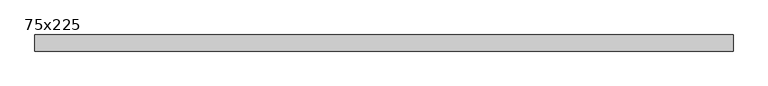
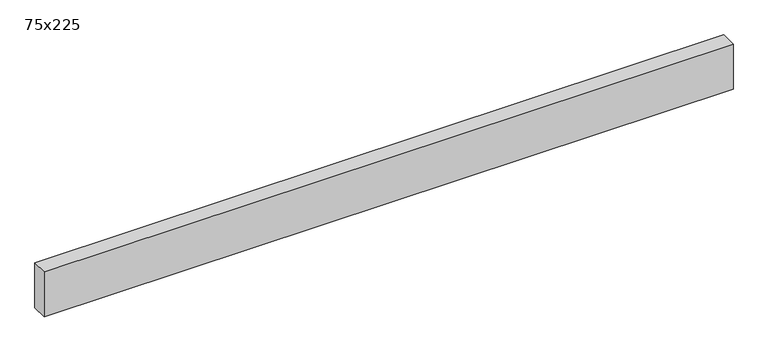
"""IFC4 building model written with IfcOpenShell, lengths in millimetres: beam geometry, Madrier : 75x225."""

import ifcopenshell
import ifcopenshell.guid

model = None  # the IFC model being written
_history = None  # IfcOwnerHistory: only IFC2X3 demands one
_inside = {}  # id of a spatial element -> (the spatial element, [elements in it])
_under = {}  # id of a project, library or spatial element -> (it, [spatial elements below it])
_declared = {}  # id of a project -> (the project, [libraries it declares])
_typed = {}  # id of a type object -> (the type object, [elements of that type])
_made_of = {}  # id of a material, layer set ... -> (it, [elements and type objects made of it])


def new_model(schema):
    """Start an empty IFC model of exactly this schema.

    Asked for "IFC4X3", IfcOpenShell would pick the latest addendum, in which some entities
    have other attributes; the version numbers below select the first issue.
    IFC2X3 requires an IfcOwnerHistory on every rooted entity: one is made here for all.
    """
    global model, _history
    if schema == "IFC4X3":
        model = ifcopenshell.file(schema_version=(4, 3, 0, 0))
    else:
        model = ifcopenshell.file(schema=schema)
    _inside.clear()
    _under.clear()
    _declared.clear()
    _typed.clear()
    _made_of.clear()
    _history = None
    if model.schema == "IFC2X3":
        org = make("IfcOrganization", Name="unknown")
        user = make(
            "IfcPersonAndOrganization",
            ThePerson=make("IfcPerson", FamilyName="unknown"),
            TheOrganization=org,
        )
        app = make(
            "IfcApplication",
            ApplicationDeveloper=org,
            Version="unknown",
            ApplicationFullName="unknown",
            ApplicationIdentifier="unknown",
        )
        _history = make(
            "IfcOwnerHistory",
            OwningUser=user,
            OwningApplication=app,
            ChangeAction="ADDED",
            CreationDate=0,
        )
    return model


def make(cls, **values):
    """One entity of the class cls with the attributes given. An attribute that is None is left unset."""
    return model.create_entity(
        cls, **{name: value for name, value in values.items() if value is not None}
    )


def rooted(cls, **values):
    """An entity with a GlobalId (a new one), such as an element, a storey or a relation."""
    return make(cls, GlobalId=ifcopenshell.guid.new(), OwnerHistory=_history, **values)


def si_unit(unit_type, name, prefix=None):
    """IfcSIUnit, for example si_unit("LENGTHUNIT", "METRE", prefix="MILLI")."""
    return make("IfcSIUnit", UnitType=unit_type, Prefix=prefix, Name=name)


def assignment(units):
    """IfcUnitAssignment: the units of a project."""
    return None if units is None else make("IfcUnitAssignment", Units=units)


def point(xyz):
    """IfcCartesianPoint."""
    return None if xyz is None else make("IfcCartesianPoint", Coordinates=xyz)


def direction(xyz):
    """IfcDirection."""
    return None if xyz is None else make("IfcDirection", DirectionRatios=xyz)


def frame(location, z_axis=None, x_axis=None):
    """IfcAxis2Placement3D, a coordinate frame: its origin and axes. An axis left out is left unset."""
    return make(
        "IfcAxis2Placement3D",
        Location=point(location),
        Axis=direction(z_axis),
        RefDirection=direction(x_axis),
    )


def origin():
    """The frame at (0, 0, 0) with its axes left unset."""
    return frame((0.0, 0.0, 0.0))


def place(relative_to, where):
    """IfcLocalPlacement: puts the frame where relative to a parent placement (None: the world)."""
    return make(
        "IfcLocalPlacement", PlacementRelTo=relative_to, RelativePlacement=where
    )


def context(
    kind, dimensions, precision=None, world=None, true_north=None, identifier=None
):
    """IfcGeometricRepresentationContext, for example the 3D "Model" context."""
    return make(
        "IfcGeometricRepresentationContext",
        ContextIdentifier=identifier,
        ContextType=kind,
        CoordinateSpaceDimension=dimensions,
        Precision=precision,
        WorldCoordinateSystem=world,
        TrueNorth=true_north,
    )


def project(units=None, contexts=None):
    """IfcProject with its units and contexts."""
    return rooted(
        "IfcProject",
        Name="project",
        RepresentationContexts=contexts,
        UnitsInContext=assignment(units),
    )


def spatial(cls, under=None, at=None, **own):
    """A site, building, storey or space (cls), placed at a placement, below another one or the project."""
    s = rooted(cls, ObjectPlacement=at, **own)
    if under is not None:
        _under.setdefault(under.id(), (under, []))[1].append(s)
    return s


def polyline(points):
    """IfcPolyline through the points."""
    return make("IfcPolyline", Points=[point(p) for p in points])


def outline(outer, holes=None, kind="AREA"):
    """IfcArbitraryClosedProfileDef: a profile drawn as a closed curve; with holes, ...WithVoids."""
    if holes is None:
        return make("IfcArbitraryClosedProfileDef", ProfileType=kind, OuterCurve=outer)
    return make(
        "IfcArbitraryProfileDefWithVoids",
        ProfileType=kind,
        OuterCurve=outer,
        InnerCurves=holes,
    )


def extrude(swept, where, along, depth):
    """IfcExtrudedAreaSolid: the profile swept, set in the frame where, extruded along a direction by depth."""
    return make(
        "IfcExtrudedAreaSolid",
        SweptArea=swept,
        Position=where,
        ExtrudedDirection=direction(along),
        Depth=depth,
    )


def shape(context_of_items, identifier, shape_type, items):
    """IfcShapeRepresentation: the items that make up one representation, for example the "Body"."""
    return make(
        "IfcShapeRepresentation",
        ContextOfItems=context_of_items,
        RepresentationIdentifier=identifier,
        RepresentationType=shape_type,
        Items=items,
    )


def source(mapping_origin, context_of_items, identifier, shape_type, items):
    """IfcRepresentationMap: a shape defined once, which mapped items show again and again."""
    return make(
        "IfcRepresentationMap",
        MappingOrigin=mapping_origin,
        MappedRepresentation=shape(context_of_items, identifier, shape_type, items),
    )


def transform(
    local_origin,
    x_axis=None,
    y_axis=None,
    z_axis=None,
    scale=None,
    scale2=None,
    scale3=None,
    uniform=True,
):
    """IfcCartesianTransformationOperator3D, or its non-uniform kind. x_axis, y_axis, z_axis: its Axis1, 2, 3."""
    if uniform:
        return make(
            "IfcCartesianTransformationOperator3D",
            Axis1=direction(x_axis),
            Axis2=direction(y_axis),
            LocalOrigin=point(local_origin),
            Scale=scale,
            Axis3=direction(z_axis),
        )
    return make(
        "IfcCartesianTransformationOperator3DnonUniform",
        Axis1=direction(x_axis),
        Axis2=direction(y_axis),
        LocalOrigin=point(local_origin),
        Scale=scale,
        Axis3=direction(z_axis),
        Scale2=scale2,
        Scale3=scale3,
    )


def mapped(mapping_source, mapping_target):
    """IfcMappedItem: shows the shape of a source again, moved by a transform."""
    return make(
        "IfcMappedItem", MappingSource=mapping_source, MappingTarget=mapping_target
    )


def made_of(thing, what):
    """Note that an element or type object is made of a material, layer set ...; save() writes the relation."""
    if what is not None:
        _made_of.setdefault(what.id(), (what, []))[1].append(thing)
    return thing


def element(
    cls,
    number,
    at=None,
    inside=None,
    cuts=None,
    type_object=None,
    material=None,
    context=None,
    identifier="Body",
    shape_type=None,
    held_by="IfcProductDefinitionShape",
    body=None,
    shapes=None,
    **own,
):
    """One element of the class cls, such as IfcWall. Its Tag is "e" and its number.

    at: its placement. inside: the storey or other place that contains it. cuts: it is an
    opening in that element (IfcRelVoidsElement). A single representation is given by context,
    identifier, shape_type and body (its items); several are given by shapes. held_by: the class
    of the entity that holds the representations. save() writes the other relations.
    """
    e = rooted(cls, Tag="e%d" % number, ObjectPlacement=at, **own)
    if body is not None:
        shapes = [shape(context, identifier, shape_type, body)]
    if shapes is not None:
        e.Representation = make(held_by, Representations=shapes)
    if inside is not None:
        _inside.setdefault(inside.id(), (inside, []))[1].append(e)
    if cuts is not None:
        rooted(
            "IfcRelVoidsElement", RelatingBuildingElement=cuts, RelatedOpeningElement=e
        )
    if type_object is not None:
        _typed.setdefault(type_object.id(), (type_object, []))[1].append(e)
    return made_of(e, material)


def aggregate(whole, parts):
    """IfcRelAggregates: a whole, such as a stair, and the parts it consists of."""
    return rooted("IfcRelAggregates", RelatingObject=whole, RelatedObjects=parts)


def save(model, path):
    """Write the relations noted so far, then the file.

    IfcRelAggregates (storeys below a building ...), IfcRelContainedInSpatialStructure (elements
    in a storey), IfcRelDefinesByType, IfcRelAssociatesMaterial and IfcRelDeclares: one each for
    every whole, place, type object, material and project.
    """
    for whole, parts in _under.values():
        aggregate(whole, parts)
    for where, things in _inside.values():
        rooted(
            "IfcRelContainedInSpatialStructure",
            RelatedElements=things,
            RelatingStructure=where,
        )
    for kind, things in _typed.values():
        rooted("IfcRelDefinesByType", RelatedObjects=things, RelatingType=kind)
    for what, things in _made_of.values():
        rooted("IfcRelAssociatesMaterial", RelatedObjects=things, RelatingMaterial=what)
    for by, libraries in _declared.values():
        rooted("IfcRelDeclares", RelatingContext=by, RelatedDefinitions=libraries)
    model.write(path)


def beam_75x225_ac8073e9(model_context):
    return source(origin(), model_context, "Body", "SweptSolid", [
        extrude(outline(polyline([(1657.5, 37.5), (1657.5, -37.5), (-1585.0, -37.5), (-1585.0, 37.5), (1657.5, 37.5)])), frame((0.0, 0.0, -112.5), z_axis=(0.0, 0.0, 1.0), x_axis=(1.0, 0.0, 0.0)), (0.0, 0.0, 1.0), 225.0),
    ])


if __name__ == "__main__":
    model = new_model("IFC4")
    model_context = context("Model", 3, world=origin())
    ifc_project = project(units=[si_unit("LENGTHUNIT", "METRE", prefix="MILLI")], contexts=[model_context])
    site = spatial("IfcSite", under=ifc_project)
    building = spatial("IfcBuilding", under=site)
    placement = place(None, origin())
    beam_75x225_shape = beam_75x225_ac8073e9(model_context)
    element("IfcBeam", 1, ObjectType="Madrier : 75x225", at=placement, inside=building, context=model_context, shape_type="MappedRepresentation", body=[
        mapped(beam_75x225_shape, transform((0.0, 0.0, 0.0), x_axis=(1.0, 0.0, 0.0), y_axis=(0.0, 1.0, 0.0), z_axis=(0.0, 0.0, 1.0))),
    ])
    save(model, "model.ifc")
